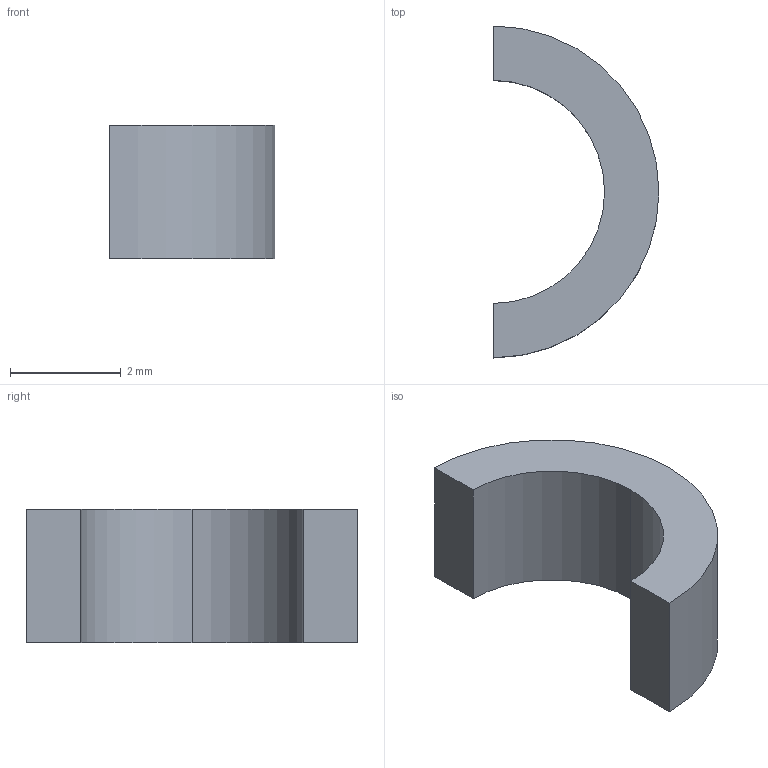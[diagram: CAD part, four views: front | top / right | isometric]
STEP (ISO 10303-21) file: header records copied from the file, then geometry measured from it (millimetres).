
FILE_DESCRIPTION(('Open CASCADE Model'),'2;1');
FILE_NAME('Open CASCADE Shape Model','2026-09-24T17:42:53',('Author'),( 'Open CASCADE'),'Open CASCADE STEP processor 7.8','Open CASCADE 7.8' ,'Unknown');
FILE_SCHEMA(('AUTOMOTIVE_DESIGN { 1 0 10303 214 1 1 1 1 }'));
Length unit declared in the file: millimetre
Products named in the file (1): Open CASCADE STEP translator 7.8 27
Bounding box: 2.99 x 5.98 x 2.4 mm (x, y, z)
Volume: 18.5 mm3; surface area: 57.8 mm2
Topology: 1 solids, 1 shells, 8 faces, 18 edges, 12 vertices
Faces by surface type: cylinder 4, plane 4
Entity records: 458 total; most frequent: CARTESIAN_POINT 91, DIRECTION 64, ORIENTED_EDGE 36, PCURVE 36, DEFINITIONAL_REPRESENTATION 36, LINE 22, VECTOR 22, EDGE_CURVE 18
